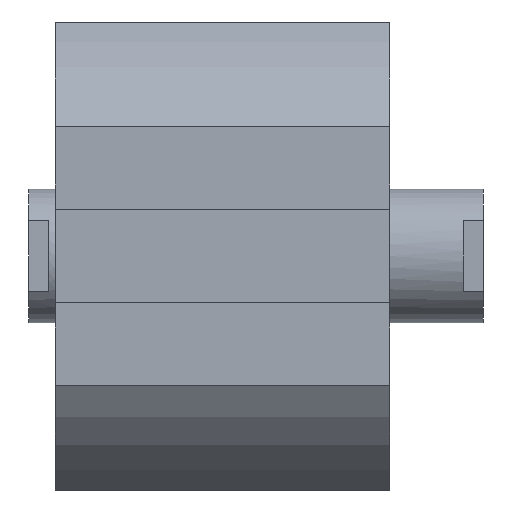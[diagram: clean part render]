
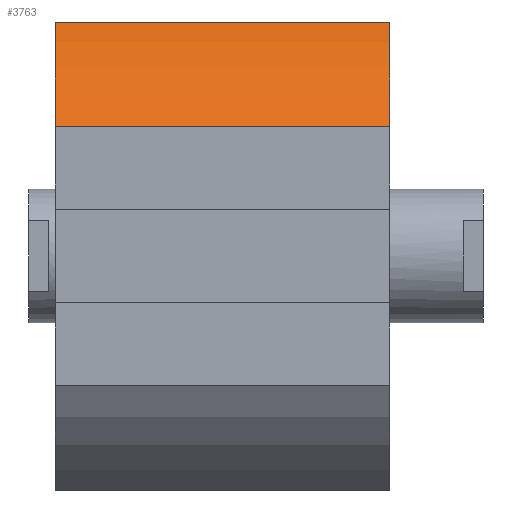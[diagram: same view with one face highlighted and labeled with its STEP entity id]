
A CAD part, left-side view. The second image highlights one B-rep face of the part: STEP entity #3763.
In plain terms, the highlighted cylindrical face has radius 40 mm (diameter 80 mm), a partial arc.
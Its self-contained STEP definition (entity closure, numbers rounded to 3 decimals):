
#6 = DIRECTION ( 'NONE',  ( 0., 1., 0. ) ) ;
#194 = LINE ( 'NONE', #1598, #3845 ) ;
#247 = EDGE_CURVE ( 'NONE', #1589, #3605, #2459, .T. ) ;
#427 = CARTESIAN_POINT ( 'NONE',  ( -35., -50., 19.365 ) ) ;
#500 = CARTESIAN_POINT ( 'NONE',  ( -35., 0., 19.365 ) ) ;
#737 = CIRCLE ( 'NONE', #1348, 40. ) ;
#1012 = CARTESIAN_POINT ( 'NONE',  ( 0., 0., 0. ) ) ;
#1035 = CARTESIAN_POINT ( 'NONE',  ( -19.365, -50., 35. ) ) ;
#1087 = ORIENTED_EDGE ( 'NONE', *, *, #3695, .F. ) ;
#1209 = CARTESIAN_POINT ( 'NONE',  ( 0., -50., 0. ) ) ;
#1266 = FACE_OUTER_BOUND ( 'NONE', #2738, .T. ) ;
#1348 = AXIS2_PLACEMENT_3D ( 'NONE', #1012, #3439, #3786 ) ;
#1489 = DIRECTION ( 'NONE',  ( 0., 1., 0. ) ) ;
#1522 = DIRECTION ( 'NONE',  ( 0., 1., 0. ) ) ;
#1589 = VERTEX_POINT ( 'NONE', #427 ) ;
#1598 = CARTESIAN_POINT ( 'NONE',  ( -19.365, -50., 35. ) ) ;
#1864 = VECTOR ( 'NONE', #1489, 1000. ) ;
#2024 = CYLINDRICAL_SURFACE ( 'NONE', #2508, 40. ) ;
#2167 = ORIENTED_EDGE ( 'NONE', *, *, #2966, .F. ) ;
#2282 = DIRECTION ( 'NONE',  ( 0., 0., 1. ) ) ;
#2453 = DIRECTION ( 'NONE',  ( 0., 0., 1. ) ) ;
#2459 = CIRCLE ( 'NONE', #2690, 40. ) ;
#2508 = AXIS2_PLACEMENT_3D ( 'NONE', #1209, #1522, #2282 ) ;
#2638 = CARTESIAN_POINT ( 'NONE',  ( -19.365, 0., 35. ) ) ;
#2690 = AXIS2_PLACEMENT_3D ( 'NONE', #3486, #6, #2453 ) ;
#2707 = EDGE_CURVE ( 'NONE', #3605, #4412, #194, .T. ) ;
#2738 = EDGE_LOOP ( 'NONE', ( #2167, #1087, #4096, #2743 ) ) ;
#2743 = ORIENTED_EDGE ( 'NONE', *, *, #2707, .T. ) ;
#2966 = EDGE_CURVE ( 'NONE', #4341, #4412, #737, .T. ) ;
#3439 = DIRECTION ( 'NONE',  ( 0., 1., 0. ) ) ;
#3486 = CARTESIAN_POINT ( 'NONE',  ( 0., -50., 0. ) ) ;
#3605 = VERTEX_POINT ( 'NONE', #1035 ) ;
#3695 = EDGE_CURVE ( 'NONE', #1589, #4341, #3837, .T. ) ;
#3763 = ADVANCED_FACE ( 'NONE', ( #1266 ), #2024, .T. ) ;
#3786 = DIRECTION ( 'NONE',  ( 0., 0., 1. ) ) ;
#3837 = LINE ( 'NONE', #3944, #1864 ) ;
#3845 = VECTOR ( 'NONE', #4036, 1000. ) ;
#3944 = CARTESIAN_POINT ( 'NONE',  ( -35., -50., 19.365 ) ) ;
#4036 = DIRECTION ( 'NONE',  ( 0., 1., 0. ) ) ;
#4096 = ORIENTED_EDGE ( 'NONE', *, *, #247, .T. ) ;
#4341 = VERTEX_POINT ( 'NONE', #500 ) ;
#4412 = VERTEX_POINT ( 'NONE', #2638 ) ;
